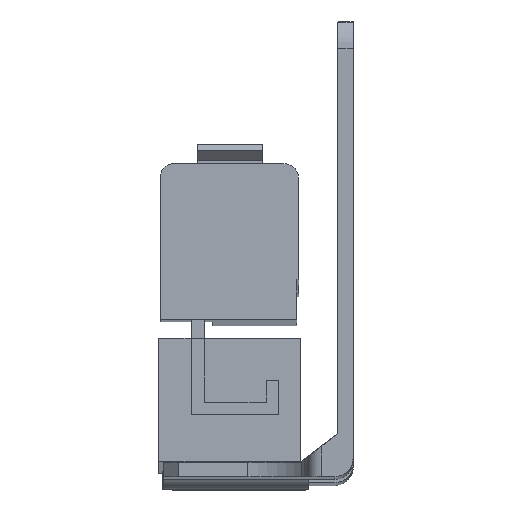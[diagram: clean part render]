
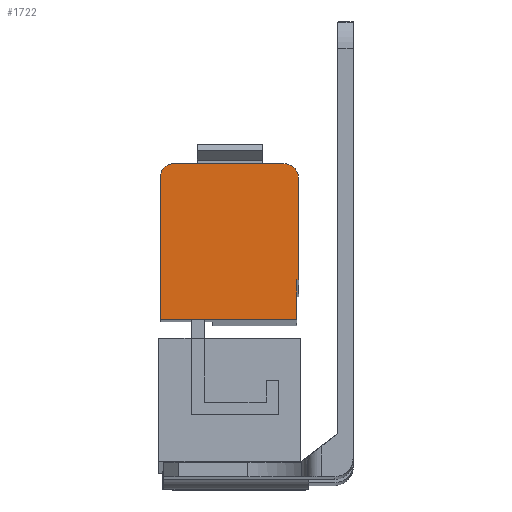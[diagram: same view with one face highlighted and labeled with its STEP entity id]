
A CAD part, front view. The second image highlights one B-rep face of the part: STEP entity #1722.
In plain terms, the highlighted planar face has unit normal (0, -1, 0.007).
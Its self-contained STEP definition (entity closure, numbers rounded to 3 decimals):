
#137 = VERTEX_POINT ( 'NONE', #439 ) ;
#139 = VERTEX_POINT ( 'NONE', #441 ) ;
#143 = VERTEX_POINT ( 'NONE', #445 ) ;
#144 = VERTEX_POINT ( 'NONE', #446 ) ;
#180 = VERTEX_POINT ( 'NONE', #482 ) ;
#181 = VERTEX_POINT ( 'NONE', #483 ) ;
#183 = VERTEX_POINT ( 'NONE', #485 ) ;
#188 = VERTEX_POINT ( 'NONE', #490 ) ;
#439 = CARTESIAN_POINT ( 'NONE',  ( -7.75, -22.282, -26.049 ) ) ;
#441 = CARTESIAN_POINT ( 'NONE',  ( -7.75, -22.244, -20.549 ) ) ;
#445 = CARTESIAN_POINT ( 'NONE',  ( -9.55, -22.132, -4.549 ) ) ;
#446 = CARTESIAN_POINT ( 'NONE',  ( -7.5, -22.244, -20.549 ) ) ;
#482 = CARTESIAN_POINT ( 'NONE',  ( -24.75, -22.132, -4.549 ) ) ;
#483 = CARTESIAN_POINT ( 'NONE',  ( -26.5, -22.282, -26.049 ) ) ;
#485 = CARTESIAN_POINT ( 'NONE',  ( -26.5, -22.144, -6.299 ) ) ;
#490 = CARTESIAN_POINT ( 'NONE',  ( -7.5, -22.146, -6.599 ) ) ;
#1288 = EDGE_CURVE ( 'NONE', #144, #188, #2594, .T. ) ;
#1291 = EDGE_CURVE ( 'NONE', #188, #143, #2601, .T. ) ;
#1295 = EDGE_CURVE ( 'NONE', #143, #180, #2607, .T. ) ;
#1298 = EDGE_CURVE ( 'NONE', #180, #183, #2614, .T. ) ;
#1302 = EDGE_CURVE ( 'NONE', #183, #181, #2620, .T. ) ;
#1303 = EDGE_CURVE ( 'NONE', #139, #144, #2622, .T. ) ;
#1306 = EDGE_CURVE ( 'NONE', #181, #137, #2628, .T. ) ;
#1307 = EDGE_CURVE ( 'NONE', #137, #139, #2630, .T. ) ;
#1439 = AXIS2_PLACEMENT_3D ( 'NONE', #3407, #3408, #3409 ) ;
#1440 = AXIS2_PLACEMENT_3D ( 'NONE', #3422, #3423, #3424 ) ;
#1572 = AXIS2_PLACEMENT_3D ( 'NONE', #3957, #3958, #3959 ) ;
#1722 = ADVANCED_FACE ( 'NONE', ( #2892 ), #3956, .T. ) ;
#1934 = ORIENTED_EDGE ( 'NONE', *, *, #1288, .T. ) ;
#1935 = ORIENTED_EDGE ( 'NONE', *, *, #1291, .T. ) ;
#1936 = ORIENTED_EDGE ( 'NONE', *, *, #1295, .T. ) ;
#1937 = ORIENTED_EDGE ( 'NONE', *, *, #1298, .T. ) ;
#1938 = ORIENTED_EDGE ( 'NONE', *, *, #1302, .T. ) ;
#1939 = ORIENTED_EDGE ( 'NONE', *, *, #1306, .T. ) ;
#1940 = ORIENTED_EDGE ( 'NONE', *, *, #1307, .T. ) ;
#1941 = ORIENTED_EDGE ( 'NONE', *, *, #1303, .T. ) ;
#2594 = LINE ( 'NONE', #3401, #2595 ) ;
#2595 = VECTOR ( 'NONE', #3402, 1000. ) ;
#2601 = CIRCLE ( 'NONE', #1439, 2.05 ) ;
#2607 = LINE ( 'NONE', #3416, #2608 ) ;
#2608 = VECTOR ( 'NONE', #3417, 1000. ) ;
#2614 = CIRCLE ( 'NONE', #1440, 1.75 ) ;
#2620 = LINE ( 'NONE', #3431, #2621 ) ;
#2621 = VECTOR ( 'NONE', #3432, 1000. ) ;
#2622 = LINE ( 'NONE', #3433, #2623 ) ;
#2623 = VECTOR ( 'NONE', #3434, 1000. ) ;
#2628 = LINE ( 'NONE', #3439, #2629 ) ;
#2629 = VECTOR ( 'NONE', #3440, 1000. ) ;
#2630 = LINE ( 'NONE', #3441, #2631 ) ;
#2631 = VECTOR ( 'NONE', #3442, 1000. ) ;
#2892 = FACE_OUTER_BOUND ( 'NONE', #4681, .T. ) ;
#3401 = CARTESIAN_POINT ( 'NONE',  ( -7.5, -22.146, -6.599 ) ) ;
#3402 = DIRECTION ( 'NONE',  ( 0., 0.007, 1. ) ) ;
#3407 = CARTESIAN_POINT ( 'NONE',  ( -9.55, -22.146, -6.599 ) ) ;
#3408 = DIRECTION ( 'NONE',  ( 0., -1., 0.007 ) ) ;
#3409 = DIRECTION ( 'NONE',  ( 0., 0.007, 1. ) ) ;
#3416 = CARTESIAN_POINT ( 'NONE',  ( -24.75, -22.132, -4.549 ) ) ;
#3417 = DIRECTION ( 'NONE',  ( -1., 0., 0. ) ) ;
#3422 = CARTESIAN_POINT ( 'NONE',  ( -24.75, -22.144, -6.299 ) ) ;
#3423 = DIRECTION ( 'NONE',  ( 0., -1., 0.007 ) ) ;
#3424 = DIRECTION ( 'NONE',  ( 0., -0.007, -1. ) ) ;
#3431 = CARTESIAN_POINT ( 'NONE',  ( -26.5, -22.144, -6.299 ) ) ;
#3432 = DIRECTION ( 'NONE',  ( 0., -0.007, -1. ) ) ;
#3433 = CARTESIAN_POINT ( 'NONE',  ( -26.5, -22.244, -20.549 ) ) ;
#3434 = DIRECTION ( 'NONE',  ( 1., 0., 0. ) ) ;
#3439 = CARTESIAN_POINT ( 'NONE',  ( -7.75, -22.282, -26.049 ) ) ;
#3440 = DIRECTION ( 'NONE',  ( 1., 0., 0. ) ) ;
#3441 = CARTESIAN_POINT ( 'NONE',  ( -7.75, -22.282, -26.049 ) ) ;
#3442 = DIRECTION ( 'NONE',  ( 0., 0.007, 1. ) ) ;
#3956 = PLANE ( 'NONE',  #1572 ) ;
#3957 = CARTESIAN_POINT ( 'NONE',  ( -24.75, -22.144, -6.299 ) ) ;
#3958 = DIRECTION ( 'NONE',  ( 0., -1., 0.007 ) ) ;
#3959 = DIRECTION ( 'NONE',  ( 0., -0.007, -1. ) ) ;
#4681 = EDGE_LOOP ( 'NONE', ( #1934, #1935, #1936, #1937, #1938, #1939, #1940, #1941 ) ) ;
